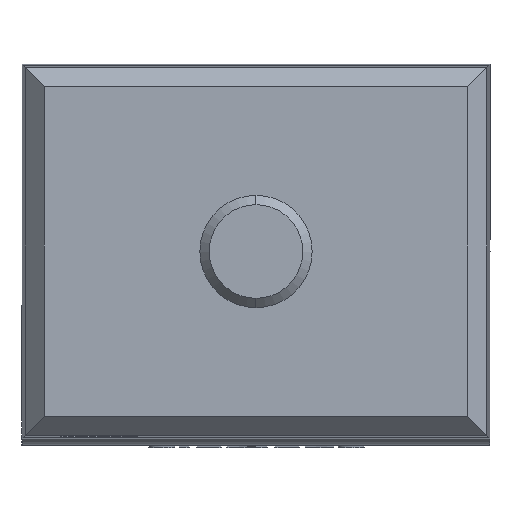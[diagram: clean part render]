
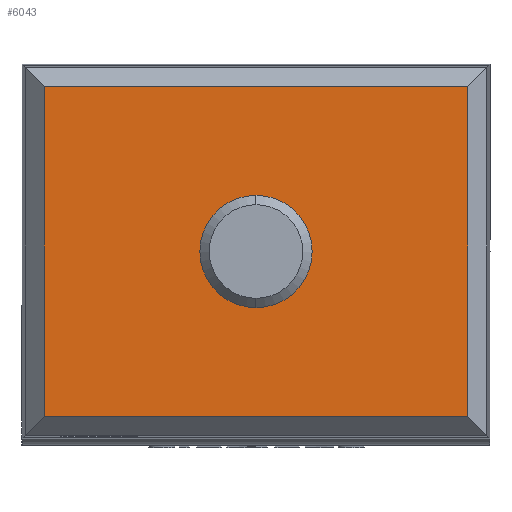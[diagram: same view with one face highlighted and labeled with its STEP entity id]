
A CAD part, front view. The second image highlights one B-rep face of the part: STEP entity #6043.
In plain terms, the highlighted planar face has unit normal (0, -1, 0).
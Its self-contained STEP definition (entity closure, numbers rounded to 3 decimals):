
#5868=CARTESIAN_POINT('',(45.222,-217.0,75.222));
#5869=VERTEX_POINT('',#5868);
#5876=CARTESIAN_POINT('',(45.222,-217.,4.778));
#5877=VERTEX_POINT('',#5876);
#5878=CARTESIAN_POINT('',(45.222,-217.0,75.222));
#5879=DIRECTION('',(0.0,0.0,-1.0));
#5880=VECTOR('',#5879,70.444);
#5881=LINE('',#5878,#5880);
#5882=EDGE_CURVE('',#5869,#5877,#5881,.T.);
#5907=CARTESIAN_POINT('',(-45.222,-217.0,4.778));
#5908=VERTEX_POINT('',#5907);
#5909=CARTESIAN_POINT('',(45.222,-217.,4.778));
#5910=DIRECTION('',(-1.0,0.0,0.0));
#5911=VECTOR('',#5910,90.444);
#5912=LINE('',#5909,#5911);
#5913=EDGE_CURVE('',#5877,#5908,#5912,.T.);
#5937=CARTESIAN_POINT('',(-45.222,-217.,75.222));
#5938=VERTEX_POINT('',#5937);
#5945=CARTESIAN_POINT('',(-45.222,-217.,75.222));
#5946=DIRECTION('',(1.0,0.0,0.0));
#5947=VECTOR('',#5946,90.444);
#5948=LINE('',#5945,#5947);
#5949=EDGE_CURVE('',#5938,#5869,#5948,.T.);
#5967=CARTESIAN_POINT('',(-45.222,-217.0,4.778));
#5968=DIRECTION('',(0.0,0.0,1.0));
#5969=VECTOR('',#5968,70.444);
#5970=LINE('',#5967,#5969);
#5971=EDGE_CURVE('',#5908,#5938,#5970,.T.);
#6032=CARTESIAN_POINT('',(0.,-217.0,40.));
#6033=DIRECTION('',(0.0,1.0,0.0));
#6034=DIRECTION('',(0.0,0.0,-1.0));
#6035=AXIS2_PLACEMENT_3D('',#6032,#6033,#6034);
#6036=PLANE('',#6035);
#6037=ORIENTED_EDGE('',*,*,#5882,.F.);
#6038=ORIENTED_EDGE('',*,*,#5949,.F.);
#6039=ORIENTED_EDGE('',*,*,#5971,.F.);
#6040=ORIENTED_EDGE('',*,*,#5913,.F.);
#6041=EDGE_LOOP('',(#6037,#6038,#6039,#6040));
#6042=FACE_OUTER_BOUND('',#6041,.T.);
#6043=ADVANCED_FACE('',(#6042),#6036,.F.);
